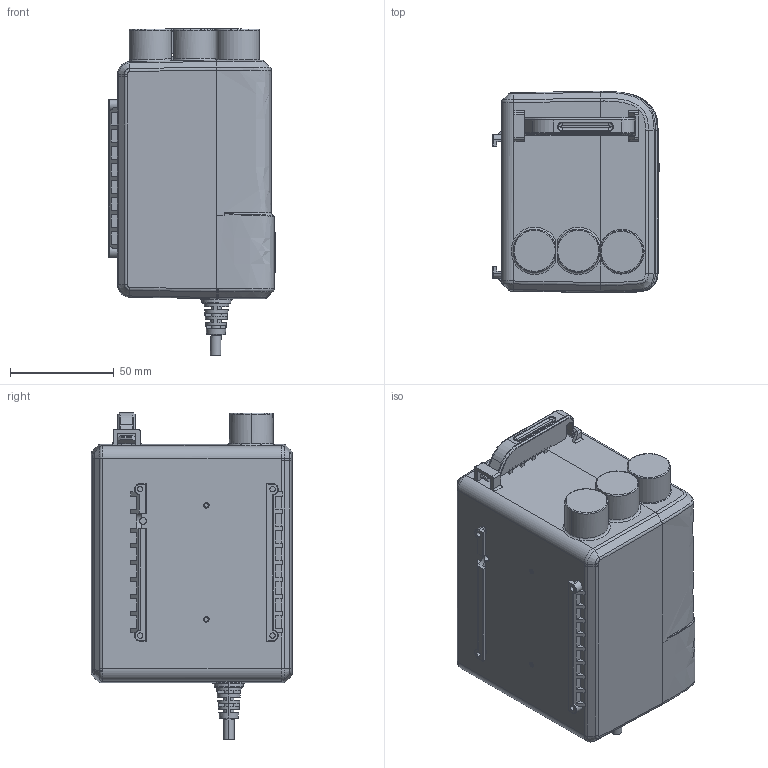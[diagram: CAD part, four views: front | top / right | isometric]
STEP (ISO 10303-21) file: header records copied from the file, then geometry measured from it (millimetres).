
FILE_DESCRIPTION (( 'STEP AP203' ), '1' );
FILE_NAME ('TC2B.STEP', '2014-01-16T02:40:33', ( 'stanley' ), ( '' ), 'SwSTEP 2.0', 'SolidWorks 2010', '' );
FILE_SCHEMA (( 'CONFIG_CONTROL_DESIGN' ));
Products named in the file (1): TC2B
Bounding box: 80.25 x 97.09 x 157.66 mm (x, y, z)
Volume: 825353.4 mm3; surface area: 62997.6 mm2
Topology: 12 solids, 12 shells, 2004 faces, 5750 edges, 3784 vertices
Faces by surface type: plane 1709, cylinder 153, torus 75, bspline 53, cone 12, sphere 2
Entity records: 78806 total; most frequent: CARTESIAN_POINT 26833, ORIENTED_EDGE 11500, DIRECTION 9725, EDGE_CURVE 5750, VECTOR 5023, LINE 5023, VERTEX_POINT 3784, AXIS2_PLACEMENT_3D 2351
